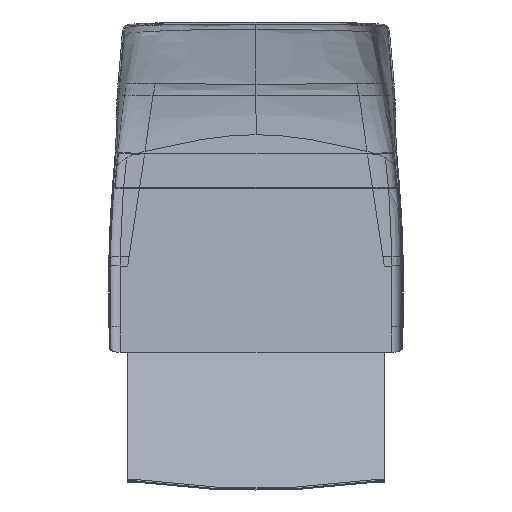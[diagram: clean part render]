
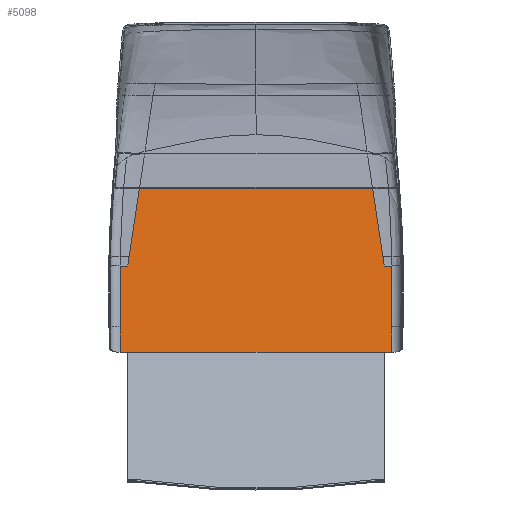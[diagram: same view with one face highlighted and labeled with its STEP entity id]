
A CAD part, front view. The second image highlights one B-rep face of the part: STEP entity #5098.
In plain terms, the highlighted planar face has unit normal (0, -0.994, 0.112).
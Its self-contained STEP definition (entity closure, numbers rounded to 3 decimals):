
#49=PLANE('',#5235);
#77=LINE('',#9823,#157);
#110=LINE('',#21562,#190);
#112=LINE('',#21566,#192);
#118=LINE('',#25495,#198);
#122=LINE('',#25505,#202);
#125=LINE('',#29185,#205);
#127=LINE('',#29213,#207);
#129=LINE('',#29569,#209);
#157=VECTOR('',#5336,1000.);
#190=VECTOR('',#5407,1000.);
#192=VECTOR('',#5411,1000.);
#198=VECTOR('',#5427,1000.);
#202=VECTOR('',#5437,1000.);
#205=VECTOR('',#5448,1000.);
#207=VECTOR('',#5456,1000.);
#209=VECTOR('',#5466,1000.);
#1070=ORIENTED_EDGE('',*,*,#1886,.F.);
#1071=ORIENTED_EDGE('',*,*,#1541,.T.);
#1072=ORIENTED_EDGE('',*,*,#1544,.T.);
#1073=ORIENTED_EDGE('',*,*,#1547,.T.);
#1074=ORIENTED_EDGE('',*,*,#1785,.F.);
#1075=ORIENTED_EDGE('',*,*,#1789,.F.);
#1076=ORIENTED_EDGE('',*,*,#1788,.F.);
#1077=ORIENTED_EDGE('',*,*,#1791,.F.);
#1078=ORIENTED_EDGE('',*,*,#1826,.F.);
#1079=ORIENTED_EDGE('',*,*,#1869,.F.);
#1080=ORIENTED_EDGE('',*,*,#1867,.T.);
#1081=ORIENTED_EDGE('',*,*,#1889,.T.);
#1082=ORIENTED_EDGE('',*,*,#1864,.T.);
#1083=ORIENTED_EDGE('',*,*,#1862,.F.);
#1084=ORIENTED_EDGE('',*,*,#1831,.F.);
#1085=ORIENTED_EDGE('',*,*,#1793,.F.);
#1086=ORIENTED_EDGE('',*,*,#1797,.F.);
#1087=ORIENTED_EDGE('',*,*,#1796,.F.);
#1541=EDGE_CURVE('',#2065,#2067,#2393,.T.);
#1544=EDGE_CURVE('',#2067,#2069,#77,.T.);
#1547=EDGE_CURVE('',#2069,#2071,#2397,.T.);
#1785=EDGE_CURVE('',#2229,#2071,#2600,.T.);
#1788=EDGE_CURVE('',#2204,#2230,#2603,.T.);
#1789=EDGE_CURVE('',#2230,#2229,#2604,.T.);
#1791=EDGE_CURVE('',#2231,#2204,#110,.T.);
#1793=EDGE_CURVE('',#2209,#2233,#112,.T.);
#1796=EDGE_CURVE('',#2234,#2235,#2606,.T.);
#1797=EDGE_CURVE('',#2235,#2209,#2607,.T.);
#1826=EDGE_CURVE('',#2251,#2231,#118,.T.);
#1831=EDGE_CURVE('',#2233,#2254,#122,.T.);
#1862=EDGE_CURVE('',#2254,#2263,#125,.T.);
#1864=EDGE_CURVE('',#2264,#2263,#2659,.T.);
#1867=EDGE_CURVE('',#2265,#2266,#2662,.T.);
#1869=EDGE_CURVE('',#2265,#2251,#127,.T.);
#1886=EDGE_CURVE('',#2065,#2234,#2678,.T.);
#1889=EDGE_CURVE('',#2266,#2264,#129,.T.);
#2065=VERTEX_POINT('',#9773);
#2067=VERTEX_POINT('',#9806);
#2069=VERTEX_POINT('',#9822);
#2071=VERTEX_POINT('',#9843);
#2204=VERTEX_POINT('',#20229);
#2209=VERTEX_POINT('',#20329);
#2229=VERTEX_POINT('',#21491);
#2230=VERTEX_POINT('',#21554);
#2231=VERTEX_POINT('',#21561);
#2233=VERTEX_POINT('',#21567);
#2234=VERTEX_POINT('',#21622);
#2235=VERTEX_POINT('',#21627);
#2251=VERTEX_POINT('',#25494);
#2254=VERTEX_POINT('',#25504);
#2263=VERTEX_POINT('',#29184);
#2264=VERTEX_POINT('',#29191);
#2265=VERTEX_POINT('',#29201);
#2266=VERTEX_POINT('',#29206);
#2393=B_SPLINE_CURVE_WITH_KNOTS('',3,(#9807,#9808,#9809,#9810),
 .UNSPECIFIED.,.F.,.F.,(4,4),(0.,1.),.UNSPECIFIED.);
#2397=B_SPLINE_CURVE_WITH_KNOTS('',3,(#9844,#9845,#9846,#9847,#9848,#9849,
#9850),.UNSPECIFIED.,.F.,.F.,(4,3,4),(0.,0.008,1.),
 .UNSPECIFIED.);
#2600=B_SPLINE_CURVE_WITH_KNOTS('',3,(#21487,#21488,#21489,#21490),
 .UNSPECIFIED.,.F.,.F.,(4,4),(0.,1.),.UNSPECIFIED.);
#2603=B_SPLINE_CURVE_WITH_KNOTS('',3,(#21550,#21551,#21552,#21553),
 .UNSPECIFIED.,.F.,.F.,(4,4),(0.,1.),.UNSPECIFIED.);
#2604=B_SPLINE_CURVE_WITH_KNOTS('',3,(#21555,#21556,#21557,#21558),
 .UNSPECIFIED.,.F.,.F.,(4,4),(0.,1.),.UNSPECIFIED.);
#2606=B_SPLINE_CURVE_WITH_KNOTS('',3,(#21623,#21624,#21625,#21626),
 .UNSPECIFIED.,.F.,.F.,(4,4),(0.,1.),.UNSPECIFIED.);
#2607=B_SPLINE_CURVE_WITH_KNOTS('',3,(#21628,#21629,#21630,#21631),
 .UNSPECIFIED.,.F.,.F.,(4,4),(0.,1.),.UNSPECIFIED.);
#2659=B_SPLINE_CURVE_WITH_KNOTS('',3,(#29192,#29193,#29194,#29195),
 .UNSPECIFIED.,.F.,.F.,(4,4),(0.,1.),.UNSPECIFIED.);
#2662=B_SPLINE_CURVE_WITH_KNOTS('',3,(#29207,#29208,#29209,#29210),
 .UNSPECIFIED.,.F.,.F.,(4,4),(0.,1.),.UNSPECIFIED.);
#2678=B_SPLINE_CURVE_WITH_KNOTS('',3,(#29513,#29514,#29515,#29516),
 .UNSPECIFIED.,.F.,.F.,(4,4),(0.,1.),.UNSPECIFIED.);
#2901=EDGE_LOOP('',(#1070,#1071,#1072,#1073,#1074,#1075,#1076,#1077,#1078,
#1079,#1080,#1081,#1082,#1083,#1084,#1085,#1086,#1087));
#3129=FACE_BOUND('',#2901,.T.);
#5098=ADVANCED_FACE('',(#3129),#49,.T.);
#5235=AXIS2_PLACEMENT_3D('',#29568,#5464,#5465);
#5336=DIRECTION('',(-1.,0.,0.));
#5407=DIRECTION('',(0.,0.112,0.994));
#5411=DIRECTION('',(0.,-0.112,-0.994));
#5427=DIRECTION('',(-0.009,0.112,0.994));
#5437=DIRECTION('',(-0.009,-0.112,-0.994));
#5448=DIRECTION('',(-1.,0.,0.));
#5456=DIRECTION('',(-1.,0.,0.));
#5464=DIRECTION('',(0.,-0.994,0.112));
#5465=DIRECTION('',(0.,-0.112,-0.994));
#5466=DIRECTION('',(1.,0.,0.));
#9773=CARTESIAN_POINT('',(218.275,125.08,510.194));
#9806=CARTESIAN_POINT('',(218.125,125.08,510.194));
#9807=CARTESIAN_POINT('',(218.281,125.08,510.194));
#9808=CARTESIAN_POINT('',(218.229,125.08,510.194));
#9809=CARTESIAN_POINT('',(218.176,125.08,510.194));
#9810=CARTESIAN_POINT('',(218.124,125.08,510.194));
#9822=CARTESIAN_POINT('',(-218.128,125.08,510.194));
#9823=CARTESIAN_POINT('',(-218.125,125.08,510.194));
#9843=CARTESIAN_POINT('',(-218.278,125.08,510.194));
#9844=CARTESIAN_POINT('',(-218.128,125.08,510.194));
#9845=CARTESIAN_POINT('',(-218.128,125.08,510.194));
#9846=CARTESIAN_POINT('',(-218.128,125.08,510.194));
#9847=CARTESIAN_POINT('',(-218.129,125.08,510.194));
#9848=CARTESIAN_POINT('',(-218.179,125.08,510.194));
#9849=CARTESIAN_POINT('',(-218.23,125.08,510.194));
#9850=CARTESIAN_POINT('',(-218.281,125.08,510.194));
#20229=CARTESIAN_POINT('',(-254.559,108.717,365.436));
#20329=CARTESIAN_POINT('',(254.559,108.717,365.436));
#21487=CARTESIAN_POINT('',(-237.505,110.685,382.843));
#21488=CARTESIAN_POINT('',(-231.098,115.483,425.292));
#21489=CARTESIAN_POINT('',(-224.685,120.282,467.742));
#21490=CARTESIAN_POINT('',(-218.275,125.08,510.194));
#21491=CARTESIAN_POINT('',(-237.505,110.685,382.843));
#21550=CARTESIAN_POINT('',(-254.559,108.717,365.436));
#21551=CARTESIAN_POINT('',(-249.75,108.717,365.436));
#21552=CARTESIAN_POINT('',(-244.941,108.717,365.436));
#21553=CARTESIAN_POINT('',(-240.133,108.717,365.436));
#21554=CARTESIAN_POINT('',(-240.133,108.717,365.436));
#21555=CARTESIAN_POINT('',(-240.133,108.717,365.436));
#21556=CARTESIAN_POINT('',(-239.257,109.373,371.238));
#21557=CARTESIAN_POINT('',(-238.38,110.029,377.041));
#21558=CARTESIAN_POINT('',(-237.504,110.685,382.843));
#21561=CARTESIAN_POINT('',(-254.559,95.843,251.546));
#21562=CARTESIAN_POINT('',(-254.559,85.823,162.904));
#21566=CARTESIAN_POINT('',(254.559,85.823,162.904));
#21567=CARTESIAN_POINT('',(254.559,95.843,251.546));
#21622=CARTESIAN_POINT('',(237.505,110.685,382.843));
#21623=CARTESIAN_POINT('',(237.504,110.685,382.843));
#21624=CARTESIAN_POINT('',(238.38,110.029,377.041));
#21625=CARTESIAN_POINT('',(239.257,109.373,371.238));
#21626=CARTESIAN_POINT('',(240.133,108.717,365.436));
#21627=CARTESIAN_POINT('',(240.133,108.717,365.436));
#21628=CARTESIAN_POINT('',(240.133,108.717,365.436));
#21629=CARTESIAN_POINT('',(244.941,108.717,365.436));
#21630=CARTESIAN_POINT('',(249.75,108.717,365.436));
#21631=CARTESIAN_POINT('',(254.559,108.717,365.436));
#25494=CARTESIAN_POINT('',(-254.125,90.447,203.808));
#25495=CARTESIAN_POINT('',(-254.342,93.145,227.677));
#25504=CARTESIAN_POINT('',(254.125,90.447,203.808));
#25505=CARTESIAN_POINT('',(254.342,93.145,227.677));
#29184=CARTESIAN_POINT('',(240.365,90.447,203.808));
#29185=CARTESIAN_POINT('',(305.531,90.447,203.808));
#29191=CARTESIAN_POINT('',(240.,90.47,204.017));
#29192=CARTESIAN_POINT('',(240.,90.47,204.017));
#29193=CARTESIAN_POINT('',(240.122,90.462,203.947));
#29194=CARTESIAN_POINT('',(240.243,90.454,203.878));
#29195=CARTESIAN_POINT('',(240.365,90.447,203.808));
#29201=CARTESIAN_POINT('',(-240.365,90.447,203.808));
#29206=CARTESIAN_POINT('',(-240.,90.47,204.017));
#29207=CARTESIAN_POINT('',(-240.365,90.447,203.808));
#29208=CARTESIAN_POINT('',(-240.243,90.454,203.878));
#29209=CARTESIAN_POINT('',(-240.122,90.462,203.947));
#29210=CARTESIAN_POINT('',(-240.,90.47,204.017));
#29213=CARTESIAN_POINT('',(305.531,90.447,203.808));
#29513=CARTESIAN_POINT('',(218.275,125.08,510.194));
#29514=CARTESIAN_POINT('',(224.685,120.282,467.742));
#29515=CARTESIAN_POINT('',(231.098,115.483,425.292));
#29516=CARTESIAN_POINT('',(237.505,110.685,382.843));
#29568=CARTESIAN_POINT('',(305.531,85.823,162.904));
#29569=CARTESIAN_POINT('',(328.215,90.47,204.017));
